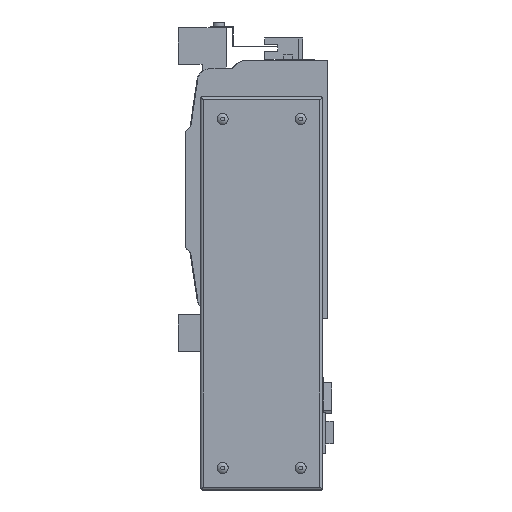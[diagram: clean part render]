
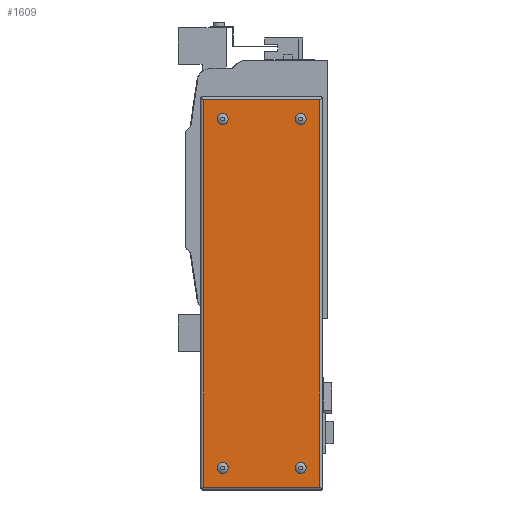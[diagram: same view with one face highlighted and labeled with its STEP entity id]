
A CAD part, left-side view. The second image highlights one B-rep face of the part: STEP entity #1609.
In plain terms, the highlighted planar face has unit normal (-1, 0, 0).
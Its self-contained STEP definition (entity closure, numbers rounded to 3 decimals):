
#1609 = ADVANCED_FACE( '', ( #3321, #3322, #3323, #3324, #3325 ), #3326, .F. );
#3321 = FACE_BOUND( '', #5124, .T. );
#3322 = FACE_BOUND( '', #5125, .T. );
#3323 = FACE_BOUND( '', #5126, .T. );
#3324 = FACE_BOUND( '', #5127, .T. );
#3325 = FACE_OUTER_BOUND( '', #5128, .T. );
#3326 = PLANE( '', #5129 );
#5124 = EDGE_LOOP( '', ( #9408 ) );
#5125 = EDGE_LOOP( '', ( #9409 ) );
#5126 = EDGE_LOOP( '', ( #9410 ) );
#5127 = EDGE_LOOP( '', ( #9411 ) );
#5128 = EDGE_LOOP( '', ( #9412, #9413, #9414, #9415 ) );
#5129 = AXIS2_PLACEMENT_3D( '', #9416, #9417, #9418 );
#9408 = ORIENTED_EDGE( '', *, *, #12149, .F. );
#9409 = ORIENTED_EDGE( '', *, *, #12018, .F. );
#9410 = ORIENTED_EDGE( '', *, *, #11399, .F. );
#9411 = ORIENTED_EDGE( '', *, *, #12012, .F. );
#9412 = ORIENTED_EDGE( '', *, *, #12150, .F. );
#9413 = ORIENTED_EDGE( '', *, *, #11965, .F. );
#9414 = ORIENTED_EDGE( '', *, *, #11141, .T. );
#9415 = ORIENTED_EDGE( '', *, *, #11407, .T. );
#9416 = CARTESIAN_POINT( '', ( -66., 0., 0. ) );
#9417 = DIRECTION( '', ( 1., 0., 0. ) );
#9418 = DIRECTION( '', ( 0., 0., -1. ) );
#11141 = EDGE_CURVE( '', #13567, #13568, #13569, .T. );
#11399 = EDGE_CURVE( '', #13978, #13978, #13979, .F. );
#11407 = EDGE_CURVE( '', #13568, #13989, #13991, .T. );
#11965 = EDGE_CURVE( '', #13567, #14764, #14765, .T. );
#12012 = EDGE_CURVE( '', #14822, #14822, #14823, .F. );
#12018 = EDGE_CURVE( '', #14830, #14830, #14831, .F. );
#12149 = EDGE_CURVE( '', #14986, #14986, #14987, .F. );
#12150 = EDGE_CURVE( '', #14764, #13989, #14988, .T. );
#13567 = VERTEX_POINT( '', #16895 );
#13568 = VERTEX_POINT( '', #16896 );
#13569 = LINE( '', #16897, #16898 );
#13978 = VERTEX_POINT( '', #17479 );
#13979 = CIRCLE( '', #17480, 3.7 );
#13989 = VERTEX_POINT( '', #17492 );
#13991 = LINE( '', #17494, #17495 );
#14764 = VERTEX_POINT( '', #18583 );
#14765 = LINE( '', #18584, #18585 );
#14822 = VERTEX_POINT( '', #18662 );
#14823 = CIRCLE( '', #18663, 3.7 );
#14830 = VERTEX_POINT( '', #18671 );
#14831 = CIRCLE( '', #18672, 3.7 );
#14986 = VERTEX_POINT( '', #18884 );
#14987 = CIRCLE( '', #18885, 3.7 );
#14988 = LINE( '', #18886, #18887 );
#16895 = CARTESIAN_POINT( '', ( -66., 84.5, 61. ) );
#16896 = CARTESIAN_POINT( '', ( -66., 84.5, -202. ) );
#16897 = CARTESIAN_POINT( '', ( -66., 84.5, 267. ) );
#16898 = VECTOR( '', #19901, 1000. );
#17479 = CARTESIAN_POINT( '', ( -66., 18.5, -192.7 ) );
#17480 = AXIS2_PLACEMENT_3D( '', #20188, #20189, #20190 );
#17492 = CARTESIAN_POINT( '', ( -66., 5.5, -202. ) );
#17494 = CARTESIAN_POINT( '', ( -66., 267., -202. ) );
#17495 = VECTOR( '', #20202, 1000. );
#18583 = CARTESIAN_POINT( '', ( -66., 5.5, 61. ) );
#18584 = CARTESIAN_POINT( '', ( -66., 267., 61. ) );
#18585 = VECTOR( '', #20764, 1000. );
#18662 = CARTESIAN_POINT( '', ( -66., 71.5, 44.3 ) );
#18663 = AXIS2_PLACEMENT_3D( '', #20803, #20804, #20805 );
#18671 = CARTESIAN_POINT( '', ( -66., 18.5, 44.3 ) );
#18672 = AXIS2_PLACEMENT_3D( '', #20810, #20811, #20812 );
#18884 = CARTESIAN_POINT( '', ( -66., 71.5, -192.7 ) );
#18885 = AXIS2_PLACEMENT_3D( '', #20918, #20919, #20920 );
#18886 = CARTESIAN_POINT( '', ( -66., 5.5, 267. ) );
#18887 = VECTOR( '', #20921, 1000. );
#19901 = DIRECTION( '', ( 0., 0., -1. ) );
#20188 = CARTESIAN_POINT( '', ( -66., 18.5, -189. ) );
#20189 = DIRECTION( '', ( 1., 0., 0. ) );
#20190 = DIRECTION( '', ( 0., 0., -1. ) );
#20202 = DIRECTION( '', ( 0., -1., 0. ) );
#20764 = DIRECTION( '', ( 0., -1., 0. ) );
#20803 = CARTESIAN_POINT( '', ( -66., 71.5, 48. ) );
#20804 = DIRECTION( '', ( 1., 0., 0. ) );
#20805 = DIRECTION( '', ( 0., 0., -1. ) );
#20810 = CARTESIAN_POINT( '', ( -66., 18.5, 48. ) );
#20811 = DIRECTION( '', ( 1., 0., 0. ) );
#20812 = DIRECTION( '', ( 0., 0., -1. ) );
#20918 = CARTESIAN_POINT( '', ( -66., 71.5, -189. ) );
#20919 = DIRECTION( '', ( 1., 0., 0. ) );
#20920 = DIRECTION( '', ( 0., 0., -1. ) );
#20921 = DIRECTION( '', ( 0., 0., -1. ) );
